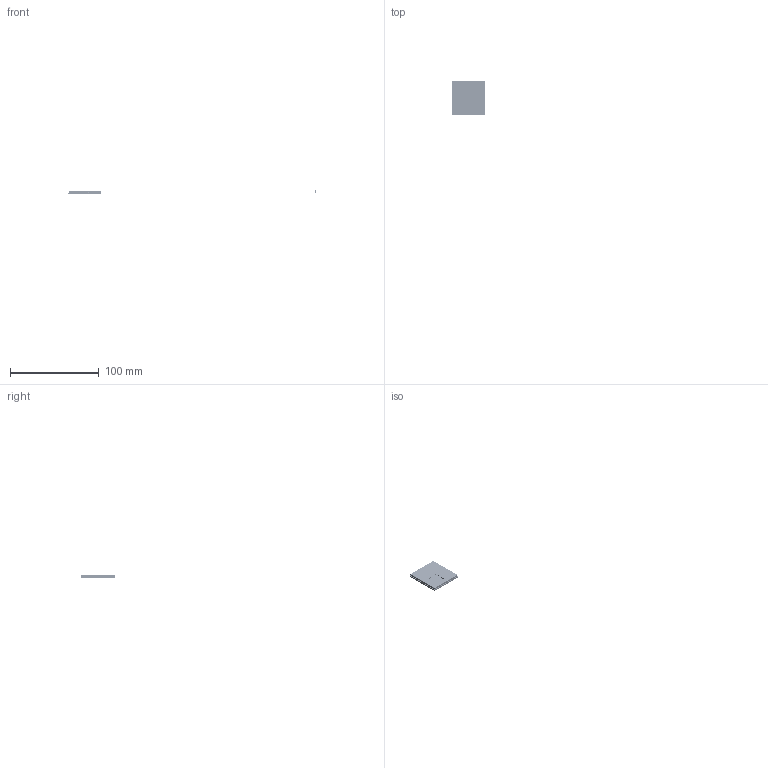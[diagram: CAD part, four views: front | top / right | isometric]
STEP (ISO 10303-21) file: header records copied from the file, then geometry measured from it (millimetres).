
FILE_DESCRIPTION((''),'2;1');
FILE_NAME('MYC-LMA35-V02-240305_ASM','2024-07-04T14:50:59',('89233'),(''),'CREO PARAMETRIC BY PTC INC, 2023073','CREO PARAMETRIC BY PTC INC, 2023073','');
FILE_SCHEMA(('AUTOMOTIVE_DESIGN { 1 0 10303 214 1 1 1 1 }'));
Products named in the file (245): MYC-LMA35-BOARD; TEMPLATE-A2; WPN252010UF1R0MT_1; L2X2_5_ASM; PRODUCT_1_0_1_1_3; PRODUCT_1_0_1_2_3; PRODUCT_1_0_1_3_3; PRODUCT_1_0_1_4_3; PRODUCT_1_0_1_5_3; PRODUCT_1_0_1_6_3; PRODUCT_1_0_1_7_3; PRODUCT_1_0_1_ASM_3_ASM; TSOT23-5_ASM_4_ASM; TSOT23-5_ASM; NONE-20964_2_4; NONE-20965_2_4; NONE-20966_2_4; NONE-20967_2_4; NONE-20968_2_4; NONE-20969_2_4; NONE-20970_2_4; NONE-20971_2_4; NONE-20972_2_4; NONE-20973_2_4; NONE-20974_2_4; NONE-20975_2_4; NONE-20976_2_4; NONE-20977_2_4; NONE-20978_2_4; NONE-20979_2_4; NONE-20980_2_4; NONE-20981_2_4; NONE-20982_2_4; NONE-20983_2_4; NONE-20984_2_4; NONE-20985_2_4; NONE-20986_2_4; NONE-20987_2_4; NONE-20988_2_4; NONE-20989_2_4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
Assembly tree (496 placements, depth 10):
  MYC-LMA35-V02-240305_ASM
    MYC-LMA35-V02-240305_1_ASM
      MYC-LMA35-BOARD
      MYC-LMA35-COMPONENTS_ASM
        TEMPLATE-A2
        L2X2_5_ASM  x4
          WPN252010UF1R0MT_1
        TSOT23-5_ASM  x4
          TSOT23-5_ASM_4_ASM
            PRODUCT_1_0_1_ASM_3_ASM
              PRODUCT_1_0_1_1_3
              PRODUCT_1_0_1_2_3
              PRODUCT_1_0_1_3_3
              PRODUCT_1_0_1_4_3
              PRODUCT_1_0_1_5_3
              PRODUCT_1_0_1_6_3
              PRODUCT_1_0_1_7_3
        BGA153_C010S_ASM
          BGA153_C010S_ASM_2_ASM_4_ASM
            BGA153_AF0_ASM_2_ASM_4_ASM
              NONE-20964_2_4
              NONE-20965_2_4
              NONE-20966_2_4
              NONE-20967_2_4
              NONE-20968_2_4
              NONE-20969_2_4
              NONE-20970_2_4
              NONE-20971_2_4
              NONE-20972_2_4
              NONE-20973_2_4
              NONE-20974_2_4
              NONE-20975_2_4
              NONE-20976_2_4
              NONE-20977_2_4
              NONE-20978_2_4
              NONE-20979_2_4
              NONE-20980_2_4
              NONE-20981_2_4
              NONE-20982_2_4
              NONE-20983_2_4
              NONE-20984_2_4
              NONE-20985_2_4
              NONE-20986_2_4
              NONE-20987_2_4
              NONE-20988_2_4
              NONE-20989_2_4
              NONE-20990_2_4
              NONE-20991_2_4
              NONE-20992_2_4
              NONE-20993_2_4
              NONE-20994_2_4
              NONE-20995_2_4
              NONE-20996_2_4
              NONE-20997_2_4
              NONE-20998_2_4
              NONE-20999_2_4
              NONE-21000_2_4
              NONE-21001_2_4
              NONE-21002_2_4
              _1_AF0_2_4
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Bounding box: 277.99 x 250.39 x 5.41 mm (x, y, z)
Volume: 3316.9 mm3; surface area: 9897.7 mm2
Topology: 881 solids, 885 shells, 16298 faces, 59605 edges, 54408 vertices
Faces by surface type: plane 9504, cylinder 3718, sphere 2158, torus 594, bspline 284, extrusion 40
Entity records: 332437 total; most frequent: DIRECTION 49236, CARTESIAN_POINT 46644, PRESENTATION_STYLE_ASSIGNMENT 20937, STYLED_ITEM 20732, CURVE_STYLE 20209, AXIS2_PLACEMENT_3D 17666, ORIENTED_EDGE 17262, TRIMMED_CURVE 13752
